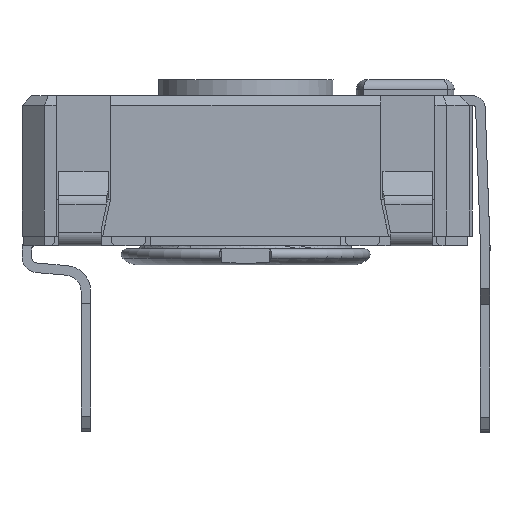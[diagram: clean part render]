
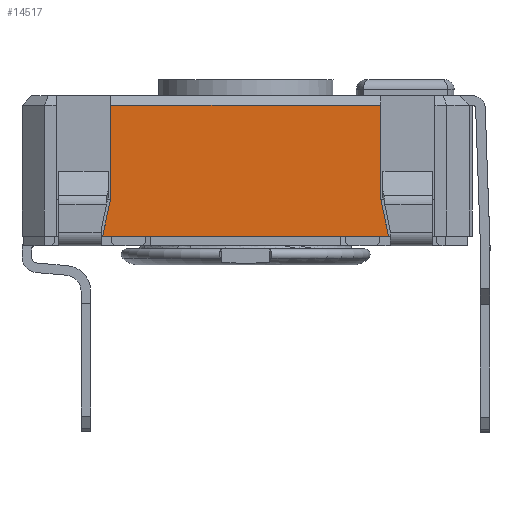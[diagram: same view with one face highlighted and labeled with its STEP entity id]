
A CAD part, left-side view. The second image highlights one B-rep face of the part: STEP entity #14517.
In plain terms, the highlighted planar face has unit normal (-1, 0, 0).
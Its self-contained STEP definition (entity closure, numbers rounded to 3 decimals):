
#1246=FACE_OUTER_BOUND('',#1995,.T.);
#1995=EDGE_LOOP('',(#11857,#11858,#11859,#11860,#11861,#11862));
#2536=LINE('',#20540,#4114);
#3154=LINE('',#22435,#4732);
#3158=LINE('',#22442,#4736);
#3506=LINE('',#23189,#5084);
#3511=LINE('',#23197,#5089);
#3512=LINE('',#23199,#5090);
#4114=VECTOR('',#16526,10.);
#4732=VECTOR('',#18034,10.);
#4736=VECTOR('',#18040,10.);
#5084=VECTOR('',#18772,10.);
#5089=VECTOR('',#18779,10.);
#5090=VECTOR('',#18782,10.);
#5631=VERTEX_POINT('',#20537);
#5632=VERTEX_POINT('',#20539);
#6221=VERTEX_POINT('',#22432);
#6222=VERTEX_POINT('',#22434);
#6224=VERTEX_POINT('',#22440);
#6417=VERTEX_POINT('',#23195);
#7067=EDGE_CURVE('',#5631,#5632,#2536,.T.);
#7903=EDGE_CURVE('',#6221,#6222,#3154,.T.);
#7907=EDGE_CURVE('',#6221,#6224,#3158,.T.);
#8279=EDGE_CURVE('',#5632,#6224,#3506,.T.);
#8284=EDGE_CURVE('',#6417,#5631,#3511,.T.);
#8285=EDGE_CURVE('',#6417,#6222,#3512,.T.);
#11857=ORIENTED_EDGE('',*,*,#7903,.F.);
#11858=ORIENTED_EDGE('',*,*,#7907,.T.);
#11859=ORIENTED_EDGE('',*,*,#8279,.F.);
#11860=ORIENTED_EDGE('',*,*,#7067,.F.);
#11861=ORIENTED_EDGE('',*,*,#8284,.F.);
#11862=ORIENTED_EDGE('',*,*,#8285,.T.);
#13123=PLANE('',#15529);
#14517=ADVANCED_FACE('',(#1246),#13123,.T.);
#15529=AXIS2_PLACEMENT_3D('',#23233,#18828,#18829);
#16526=DIRECTION('',(0.,1.,0.));
#18034=DIRECTION('',(0.,-1.,0.));
#18040=DIRECTION('',(0.,0.,-1.));
#18772=DIRECTION('',(0.,-0.208,0.978));
#18779=DIRECTION('',(0.,-0.208,-0.978));
#18782=DIRECTION('',(0.,0.,1.));
#18828=DIRECTION('center_axis',(-1.,0.,0.));
#18829=DIRECTION('ref_axis',(0.,0.,1.));
#20537=CARTESIAN_POINT('',(-28.215,10.179,0.));
#20539=CARTESIAN_POINT('',(-28.215,19.129,0.));
#20540=CARTESIAN_POINT('',(-28.215,8.354,0.));
#22432=CARTESIAN_POINT('',(-28.215,18.879,4.1));
#22434=CARTESIAN_POINT('',(-28.215,10.429,4.1));
#22435=CARTESIAN_POINT('',(-28.215,11.504,4.1));
#22440=CARTESIAN_POINT('',(-28.215,18.879,1.176));
#22442=CARTESIAN_POINT('',(-28.215,18.879,0.));
#23189=CARTESIAN_POINT('',(-28.215,19.129,0.));
#23195=CARTESIAN_POINT('',(-28.215,10.429,1.176));
#23197=CARTESIAN_POINT('',(-28.215,10.429,1.176));
#23199=CARTESIAN_POINT('',(-28.215,10.429,0.));
#23233=CARTESIAN_POINT('Origin',(-28.215,8.354,0.));
